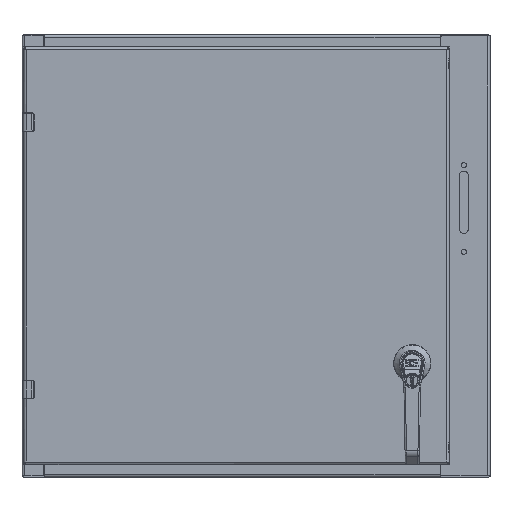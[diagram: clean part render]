
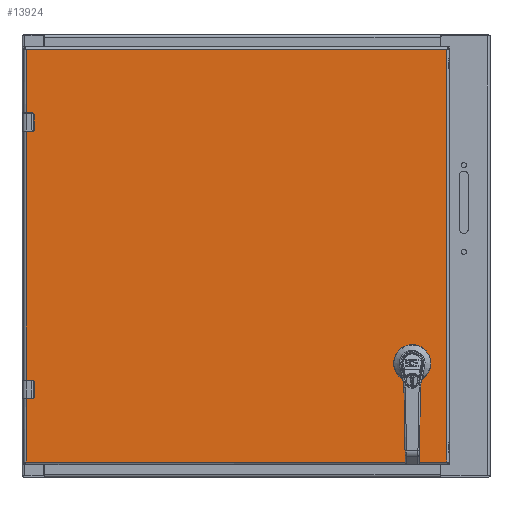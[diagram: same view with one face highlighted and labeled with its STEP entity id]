
A CAD part, top view. The second image highlights one B-rep face of the part: STEP entity #13924.
In plain terms, the highlighted planar face has unit normal (0, 0, 1).
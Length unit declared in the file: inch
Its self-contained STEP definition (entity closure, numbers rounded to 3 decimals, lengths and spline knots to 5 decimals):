
#10733=CARTESIAN_POINT('',(9.525,-6.915,0.));
#10734=DIRECTION('',(0.,0.,1.));
#10735=DIRECTION('',(-1.,0.,0.));
#10736=AXIS2_PLACEMENT_3D('',#10733,#10734,#10735);
#10741=CARTESIAN_POINT('',(9.525,-6.915,0.));
#10742=DIRECTION('',(0.,0.,1.));
#10743=DIRECTION('',(1.,0.,0.));
#10744=AXIS2_PLACEMENT_3D('',#10741,#10742,#10743);
#10749=DIRECTION('',(1.,0.,0.));
#10750=VECTOR('',#10749,0.39715);
#10751=CARTESIAN_POINT('',(9.32642,-5.429,0.));
#10752=LINE('',#10751,#10750);
#10756=CARTESIAN_POINT('',(9.525,-5.825,0.));
#10757=DIRECTION('',(0.,0.,1.));
#10758=DIRECTION('',(-0.448,0.894,0.));
#10759=AXIS2_PLACEMENT_3D('',#10756,#10757,#10758);
#10764=DIRECTION('',(0.,1.,0.));
#10765=VECTOR('',#10764,0.39715);
#10766=CARTESIAN_POINT('',(9.129,-6.02358,0.));
#10767=LINE('',#10766,#10765);
#10771=CARTESIAN_POINT('',(9.525,-5.825,0.));
#10772=DIRECTION('',(0.,0.,1.));
#10773=DIRECTION('',(-0.894,-0.448,0.));
#10774=AXIS2_PLACEMENT_3D('',#10771,#10772,#10773);
#10779=DIRECTION('',(-1.,0.,0.));
#10780=VECTOR('',#10779,0.39715);
#10781=CARTESIAN_POINT('',(9.72358,-6.221,0.));
#10782=LINE('',#10781,#10780);
#10786=CARTESIAN_POINT('',(9.525,-5.825,0.));
#10787=DIRECTION('',(0.,0.,1.));
#10788=DIRECTION('',(0.448,-0.894,0.));
#10789=AXIS2_PLACEMENT_3D('',#10786,#10787,#10788);
#10794=DIRECTION('',(0.,-1.,0.));
#10795=VECTOR('',#10794,0.39715);
#10796=CARTESIAN_POINT('',(9.921,-5.62642,0.));
#10797=LINE('',#10796,#10795);
#10801=CARTESIAN_POINT('',(9.525,-5.825,0.));
#10802=DIRECTION('',(0.,0.,1.));
#10803=DIRECTION('',(0.894,0.448,0.));
#10804=AXIS2_PLACEMENT_3D('',#10801,#10802,#10803);
#10809=DIRECTION('',(1.,0.,0.));
#10810=VECTOR('',#10809,0.339);
#10811=CARTESIAN_POINT('',(-11.3925,-7.595,0.));
#10812=LINE('',#10811,#10810);
#10816=DIRECTION('',(0.,1.,0.));
#10817=VECTOR('',#10816,0.63);
#10818=CARTESIAN_POINT('',(-11.0235,-7.565,0.));
#10819=LINE('',#10818,#10817);
#10823=DIRECTION('',(1.,0.,0.));
#10824=VECTOR('',#10823,0.339);
#10825=CARTESIAN_POINT('',(-11.3925,-6.905,0.));
#10826=LINE('',#10825,#10824);
#10830=DIRECTION('',(1.,0.,0.));
#10831=VECTOR('',#10830,0.339);
#10832=CARTESIAN_POINT('',(-11.3925,6.905,0.));
#10833=LINE('',#10832,#10831);
#10837=DIRECTION('',(0.,1.,0.));
#10838=VECTOR('',#10837,0.63);
#10839=CARTESIAN_POINT('',(-11.0235,6.935,0.));
#10840=LINE('',#10839,#10838);
#10844=DIRECTION('',(1.,0.,0.));
#10845=VECTOR('',#10844,0.339);
#10846=CARTESIAN_POINT('',(-11.3925,7.595,0.));
#10847=LINE('',#10846,#10845);
#11382=CARTESIAN_POINT('',(-11.0535,-6.935,0.));
#11383=DIRECTION('',(0.,0.,-1.));
#11384=DIRECTION('',(0.,1.,0.));
#11385=AXIS2_PLACEMENT_3D('',#11382,#11383,#11384);
#11412=CARTESIAN_POINT('',(-11.0535,-7.565,0.));
#11413=DIRECTION('',(0.,0.,-1.));
#11414=DIRECTION('',(1.,0.,0.));
#11415=AXIS2_PLACEMENT_3D('',#11412,#11413,#11414);
#11465=DIRECTION('',(0.,1.,0.));
#11466=VECTOR('',#11465,13.81);
#11467=CARTESIAN_POINT('',(-11.3925,-6.905,0.));
#11468=LINE('',#11467,#11466);
#11513=DIRECTION('',(0.,1.,0.));
#11514=VECTOR('',#11513,3.585);
#11515=CARTESIAN_POINT('',(-11.3925,7.595,0.));
#11516=LINE('',#11515,#11514);
#11591=DIRECTION('',(0.,1.,0.));
#11592=VECTOR('',#11591,3.585);
#11593=CARTESIAN_POINT('',(-11.3925,-11.18,0.));
#11594=LINE('',#11593,#11592);
#12226=CARTESIAN_POINT('',(-11.0535,6.935,0.));
#12227=DIRECTION('',(0.,0.,-1.));
#12228=DIRECTION('',(1.,0.,0.));
#12229=AXIS2_PLACEMENT_3D('',#12226,#12227,#12228);
#12256=CARTESIAN_POINT('',(-11.0535,7.565,0.));
#12257=DIRECTION('',(0.,0.,-1.));
#12258=DIRECTION('',(0.,1.,0.));
#12259=AXIS2_PLACEMENT_3D('',#12256,#12257,#12258);
#13041=DIRECTION('',(-1.,0.,0.));
#13042=VECTOR('',#13041,22.785);
#13043=CARTESIAN_POINT('',(11.3925,-11.18,0.));
#13044=LINE('',#13043,#13042);
#13133=DIRECTION('',(0.,-1.,0.));
#13134=VECTOR('',#13133,22.36);
#13135=CARTESIAN_POINT('',(11.3925,11.18,0.));
#13136=LINE('',#13135,#13134);
#13343=DIRECTION('',(1.,0.,0.));
#13344=VECTOR('',#13343,22.785);
#13345=CARTESIAN_POINT('',(-11.3925,11.18,0.));
#13346=LINE('',#13345,#13344);
#13477=CARTESIAN_POINT('',(11.3925,11.18,0.));
#13478=CARTESIAN_POINT('',(11.3925,-11.18,0.));
#13479=VERTEX_POINT('',#13477);
#13480=VERTEX_POINT('',#13478);
#13605=CARTESIAN_POINT('',(9.4,-6.915,0.));
#13606=CARTESIAN_POINT('',(9.65,-6.915,0.));
#13607=VERTEX_POINT('',#13605);
#13608=VERTEX_POINT('',#13606);
#13609=CARTESIAN_POINT('',(9.32642,-5.429,0.));
#13610=CARTESIAN_POINT('',(9.72358,-5.429,0.));
#13611=VERTEX_POINT('',#13609);
#13612=VERTEX_POINT('',#13610);
#13613=CARTESIAN_POINT('',(9.921,-5.62642,0.));
#13614=VERTEX_POINT('',#13613);
#13615=CARTESIAN_POINT('',(9.921,-6.02358,0.));
#13616=VERTEX_POINT('',#13615);
#13617=CARTESIAN_POINT('',(9.72358,-6.221,0.));
#13618=VERTEX_POINT('',#13617);
#13619=CARTESIAN_POINT('',(9.32642,-6.221,0.));
#13620=VERTEX_POINT('',#13619);
#13621=CARTESIAN_POINT('',(9.129,-6.02358,0.));
#13622=VERTEX_POINT('',#13621);
#13623=CARTESIAN_POINT('',(9.129,-5.62642,0.));
#13624=VERTEX_POINT('',#13623);
#13654=CARTESIAN_POINT('',(-11.3925,11.18,0.));
#13656=VERTEX_POINT('',#13654);
#13661=CARTESIAN_POINT('',(-11.3925,-11.18,0.));
#13663=VERTEX_POINT('',#13661);
#13765=CARTESIAN_POINT('',(-11.3925,7.595,0.));
#13767=VERTEX_POINT('',#13765);
#13769=CARTESIAN_POINT('',(-11.3925,6.905,0.));
#13771=VERTEX_POINT('',#13769);
#13781=CARTESIAN_POINT('',(-11.3925,-6.905,0.));
#13783=VERTEX_POINT('',#13781);
#13785=CARTESIAN_POINT('',(-11.3925,-7.595,0.));
#13787=VERTEX_POINT('',#13785);
#13797=CARTESIAN_POINT('',(-11.0535,7.595,0.));
#13799=VERTEX_POINT('',#13797);
#13801=CARTESIAN_POINT('',(-11.0235,7.565,0.));
#13803=VERTEX_POINT('',#13801);
#13805=CARTESIAN_POINT('',(-11.0235,6.935,0.));
#13807=VERTEX_POINT('',#13805);
#13809=CARTESIAN_POINT('',(-11.0535,6.905,0.));
#13811=VERTEX_POINT('',#13809);
#13829=CARTESIAN_POINT('',(-11.0535,-6.905,0.));
#13831=VERTEX_POINT('',#13829);
#13833=CARTESIAN_POINT('',(-11.0235,-6.935,0.));
#13835=VERTEX_POINT('',#13833);
#13837=CARTESIAN_POINT('',(-11.0235,-7.565,0.));
#13839=VERTEX_POINT('',#13837);
#13841=CARTESIAN_POINT('',(-11.0535,-7.595,0.));
#13843=VERTEX_POINT('',#13841);
#13861=CARTESIAN_POINT('',(0.,0.,0.));
#13862=DIRECTION('',(0.,0.,-1.));
#13863=DIRECTION('',(1.,0.,0.));
#13864=AXIS2_PLACEMENT_3D('',#13861,#13862,#13863);
#13865=PLANE('',#13864);
#13867=ORIENTED_EDGE('',*,*,#13866,.T.);
#13869=ORIENTED_EDGE('',*,*,#13868,.T.);
#13871=ORIENTED_EDGE('',*,*,#13870,.T.);
#13873=ORIENTED_EDGE('',*,*,#13872,.F.);
#13875=ORIENTED_EDGE('',*,*,#13874,.T.);
#13877=ORIENTED_EDGE('',*,*,#13876,.F.);
#13879=ORIENTED_EDGE('',*,*,#13878,.F.);
#13881=ORIENTED_EDGE('',*,*,#13880,.T.);
#13883=ORIENTED_EDGE('',*,*,#13882,.T.);
#13885=ORIENTED_EDGE('',*,*,#13884,.F.);
#13887=ORIENTED_EDGE('',*,*,#13886,.T.);
#13889=ORIENTED_EDGE('',*,*,#13888,.F.);
#13891=ORIENTED_EDGE('',*,*,#13890,.F.);
#13893=ORIENTED_EDGE('',*,*,#13892,.T.);
#13895=ORIENTED_EDGE('',*,*,#13894,.T.);
#13897=ORIENTED_EDGE('',*,*,#13896,.T.);
#13898=EDGE_LOOP('',(#13867,#13869,#13871,#13873,#13875,#13877,#13879,#13881,
#13883,#13885,#13887,#13889,#13891,#13893,#13895,#13897));
#13899=FACE_OUTER_BOUND('',#13898,.F.);
#13901=ORIENTED_EDGE('',*,*,#13900,.F.);
#13903=ORIENTED_EDGE('',*,*,#13902,.T.);
#13905=ORIENTED_EDGE('',*,*,#13904,.F.);
#13907=ORIENTED_EDGE('',*,*,#13906,.T.);
#13909=ORIENTED_EDGE('',*,*,#13908,.F.);
#13911=ORIENTED_EDGE('',*,*,#13910,.T.);
#13913=ORIENTED_EDGE('',*,*,#13912,.F.);
#13915=ORIENTED_EDGE('',*,*,#13914,.T.);
#13916=EDGE_LOOP('',(#13901,#13903,#13905,#13907,#13909,#13911,#13913,#13915));
#13917=FACE_BOUND('',#13916,.F.);
#13919=ORIENTED_EDGE('',*,*,#13918,.T.);
#13921=ORIENTED_EDGE('',*,*,#13920,.T.);
#13922=EDGE_LOOP('',(#13919,#13921));
#13923=FACE_BOUND('',#13922,.F.);
#10737=CIRCLE('',#10736,0.125);
#10745=CIRCLE('',#10744,0.125);
#10760=CIRCLE('',#10759,0.443);
#10775=CIRCLE('',#10774,0.443);
#10790=CIRCLE('',#10789,0.443);
#10805=CIRCLE('',#10804,0.443);
#11386=CIRCLE('',#11385,0.03);
#11416=CIRCLE('',#11415,0.03);
#12230=CIRCLE('',#12229,0.03);
#12260=CIRCLE('',#12259,0.03);
#13866=EDGE_CURVE('',#13480,#13663,#13044,.T.);
#13868=EDGE_CURVE('',#13663,#13787,#11594,.T.);
#13870=EDGE_CURVE('',#13787,#13843,#10812,.T.);
#13872=EDGE_CURVE('',#13839,#13843,#11416,.T.);
#13874=EDGE_CURVE('',#13839,#13835,#10819,.T.);
#13876=EDGE_CURVE('',#13831,#13835,#11386,.T.);
#13878=EDGE_CURVE('',#13783,#13831,#10826,.T.);
#13880=EDGE_CURVE('',#13783,#13771,#11468,.T.);
#13882=EDGE_CURVE('',#13771,#13811,#10833,.T.);
#13884=EDGE_CURVE('',#13807,#13811,#12230,.T.);
#13886=EDGE_CURVE('',#13807,#13803,#10840,.T.);
#13888=EDGE_CURVE('',#13799,#13803,#12260,.T.);
#13890=EDGE_CURVE('',#13767,#13799,#10847,.T.);
#13892=EDGE_CURVE('',#13767,#13656,#11516,.T.);
#13894=EDGE_CURVE('',#13656,#13479,#13346,.T.);
#13896=EDGE_CURVE('',#13479,#13480,#13136,.T.);
#13900=EDGE_CURVE('',#13611,#13612,#10752,.T.);
#13902=EDGE_CURVE('',#13611,#13624,#10760,.T.);
#13904=EDGE_CURVE('',#13622,#13624,#10767,.T.);
#13906=EDGE_CURVE('',#13622,#13620,#10775,.T.);
#13908=EDGE_CURVE('',#13618,#13620,#10782,.T.);
#13910=EDGE_CURVE('',#13618,#13616,#10790,.T.);
#13912=EDGE_CURVE('',#13614,#13616,#10797,.T.);
#13914=EDGE_CURVE('',#13614,#13612,#10805,.T.);
#13918=EDGE_CURVE('',#13607,#13608,#10737,.T.);
#13920=EDGE_CURVE('',#13608,#13607,#10745,.T.);
#13924=ADVANCED_FACE('',(#13899,#13917,#13923),#13865,.F.);
